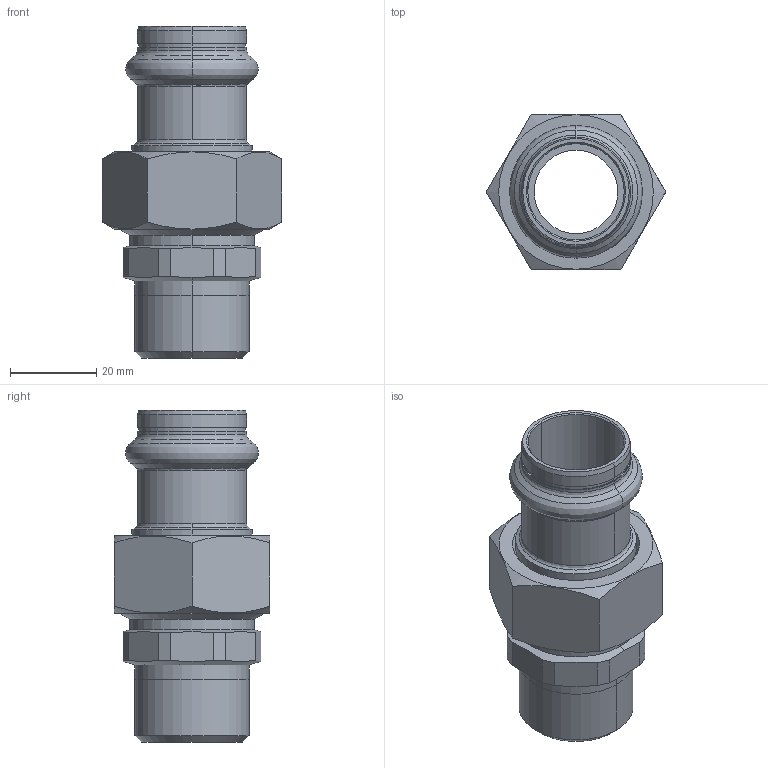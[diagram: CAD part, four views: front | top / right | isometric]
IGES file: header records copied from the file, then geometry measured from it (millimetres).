
Start section: Elysium IGES Interface
Global section: file name: C:\3d modellen sudo\C-Pr VP\SP8331GV\8331GVW2234.igs; native system: CoCreate Modeling 17.00A  17-Jun-2010; preprocessor: CoCreate IGES_3D V2.2; author: Unknown; organization: Unknown; date: 20130305.124550; units: millimetre
Bounding box: 41.57 x 36 x 77 mm (x, y, z)
Volume: 28890.9 mm3; surface area: 18193.6 mm2
Topology: 3 solids, 3 shells, 118 faces, 284 edges, 172 vertices
Faces by surface type: bspline 118
